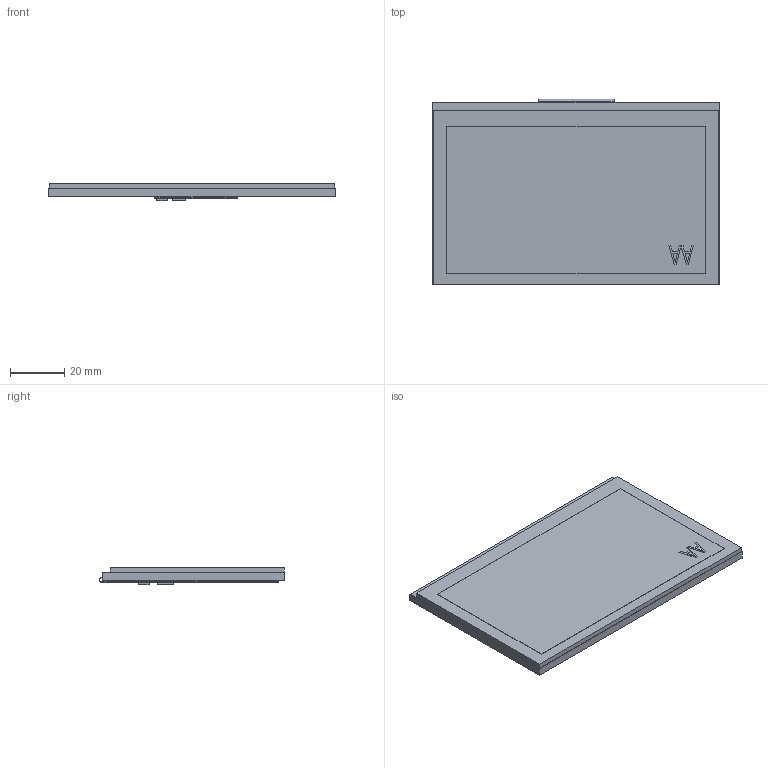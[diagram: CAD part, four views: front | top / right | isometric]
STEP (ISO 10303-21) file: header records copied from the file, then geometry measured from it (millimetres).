
FILE_DESCRIPTION(/* description */ (''),/* implementation_level */ '2;1');
FILE_NAME(/* name */ 'VTc043T64C.stp',/* time_stamp */ '2025-02-15T17:26:15+08:00',/* author */ (''),/* organization */ (''),/* preprocessor_version */ 'ST-DEVELOPER v16',/* originating_system */ 'SIEMENS PLM Software NX 10.0',/* authorisation */ '');
FILE_SCHEMA (('AP203_CONFIGURATION_CONTROLLED_3D_DESIGN_OF_MECHANICAL_PARTS_AND_ASSEMBLIES_MIM_LF { 1 0 10303 403 2 1 2}'));
Length unit declared in the file: millimetre
Products named in the file (1): VTc043T64C
Bounding box: 105.42 x 68.08 x 6.61 mm (x, y, z)
Volume: 34658.3 mm3; surface area: 42870.1 mm2
Topology: 23 solids, 23 shells, 158 faces, 336 edges, 224 vertices
Faces by surface type: plane 153, cylinder 4, extrusion 1
Entity records: 5528 total; most frequent: CARTESIAN_POINT 884, ORIENTED_EDGE 672, DIRECTION 643, EDGE_CURVE 336, VECTOR 311, LINE 310, VERTEX_POINT 224, PRESENTATION_STYLE_ASSIGNMENT 168
